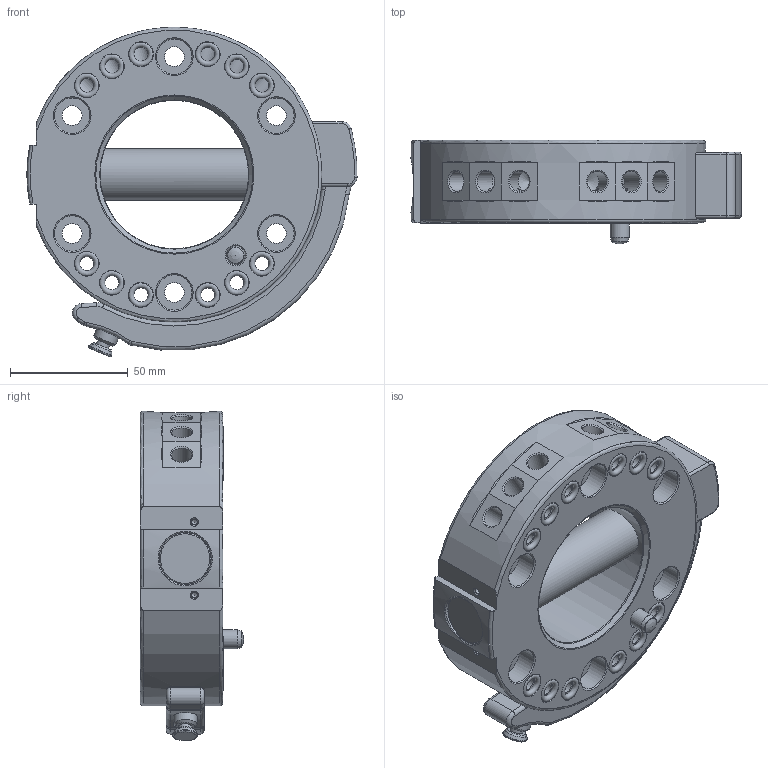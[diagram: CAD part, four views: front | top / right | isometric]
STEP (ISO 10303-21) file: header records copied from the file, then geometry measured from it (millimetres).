
FILE_DESCRIPTION(/* description */ (''),/* implementation_level */ '2;1');
FILE_NAME(/* name */ 'T:\Engineering\Homepage\Homepage 2020\4 3D Step-Daten - Homepage\4 SHW\G-SHW125-2OEP.stp',/* time_stamp */ '2023-06-30T10:58:56+02:00',/* author */ ('ysplieth'),/* organization */ (''),/* preprocessor_version */ 'ST-DEVELOPER v17',/* originating_system */ 'Autodesk Inventor 2018',/* authorisation */ '');
FILE_SCHEMA (('AUTOMOTIVE_DESIGN { 1 0 10303 214 3 1 1 }'));
Length unit declared in the file: millimetre
Products named in the file (1): Bauteil11
Bounding box: 139.99 x 43.8 x 139.79 mm (x, y, z)
Volume: 344025.8 mm3; surface area: 69573.9 mm2
Topology: 1 solids, 16 shells, 336 faces, 908 edges, 598 vertices
Faces by surface type: cylinder 109, plane 85, torus 76, cone 61, bspline 3, sphere 2
Full cylindrical faces by diameter (mm): 2.459 x2, 3.242 x2, 5.58 x1, 5.8 x1, 6 x12, 6.2 x1, 6.8 x1, 7 x1, 8 x2, 8.376 x6, 8.566 x6, 10 x1, 10.1 x1, 10.3 x12, 10.6 x1, 10.9 x24, 15 x6, 22 x3, 63 x1
Entity records: 12373 total; most frequent: CARTESIAN_POINT 2958, DIRECTION 2085, ORIENTED_EDGE 1794, AXIS2_PLACEMENT_3D 925, EDGE_CURVE 897, VERTEX_POINT 600, CIRCLE 579, EDGE_LOOP 433
